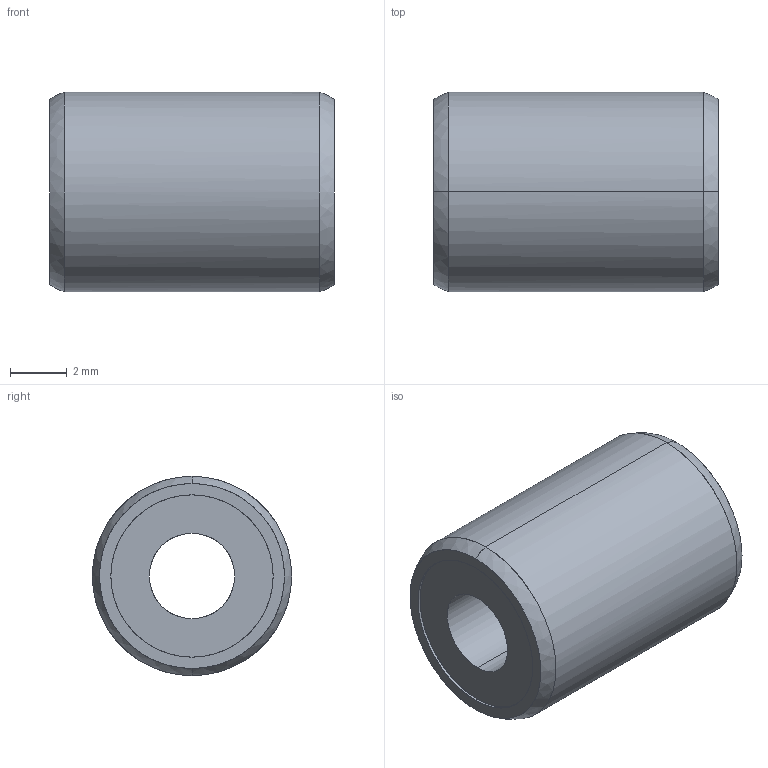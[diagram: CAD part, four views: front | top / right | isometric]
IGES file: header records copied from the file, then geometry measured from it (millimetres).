
Global section: file name: No Iges File Name specified; native system: AutoDesk Inventor R10; preprocessor: AutoDesk Inventor Iges Exporter R10; author: No Author specified; organization: No Organization specified; date: 20101208.094304; units: millimetre
Bounding box: 10 x 7 x 7 mm (x, y, z)
Surface area: 369.9 mm2 (no closed solid volume)
Topology: 0 solids, 0 shells, 16 faces, 104 edges, 104 vertices
Faces by surface type: bspline 16
